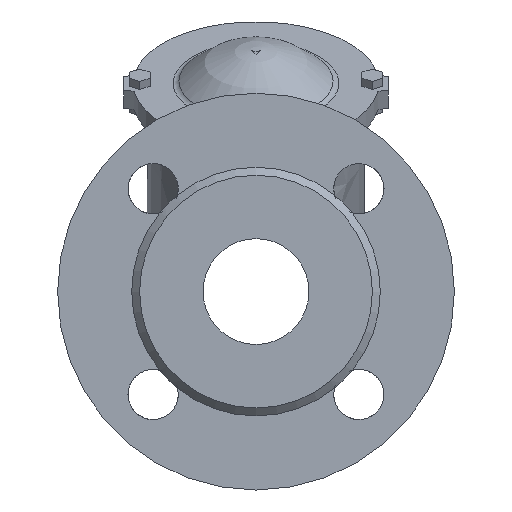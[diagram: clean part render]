
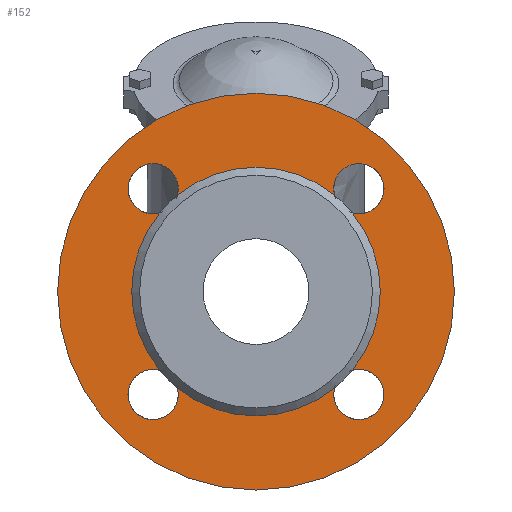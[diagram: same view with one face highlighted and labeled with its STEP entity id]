
A CAD part, left-side view. The second image highlights one B-rep face of the part: STEP entity #152.
In plain terms, the highlighted planar face has unit normal (-1, 0, 0).
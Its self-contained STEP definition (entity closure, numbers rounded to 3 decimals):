
#152=ADVANCED_FACE('',(#1096,#1098),#1100,.T.);
#1096=FACE_BOUND('',#1097,.T.);
#1097=EDGE_LOOP('',(#3699));
#1098=FACE_BOUND('',#1099,.T.);
#1099=EDGE_LOOP('',(#3700,#3701,#3702,#3703,#3704,#3705,#3706,#3707,#3708,#3709,
#3710,#3711,#3712));
#1100=PLANE('',#1101);
#1101=AXIS2_PLACEMENT_3D('',#1102,#1103,#1104);
#1102=CARTESIAN_POINT('',(-78.019,0.,0.));
#1103=DIRECTION('',(-1.,0.,0.));
#1104=DIRECTION('',(0.,0.,-1.));
#3699=ORIENTED_EDGE('',*,*,#4185,.F.);
#3700=ORIENTED_EDGE('',*,*,#4186,.T.);
#3701=ORIENTED_EDGE('',*,*,#4187,.T.);
#3702=ORIENTED_EDGE('',*,*,#4165,.T.);
#3703=ORIENTED_EDGE('',*,*,#4164,.T.);
#3704=ORIENTED_EDGE('',*,*,#4188,.T.);
#3705=ORIENTED_EDGE('',*,*,#4189,.T.);
#3706=ORIENTED_EDGE('',*,*,#4162,.T.);
#3707=ORIENTED_EDGE('',*,*,#4190,.T.);
#3708=ORIENTED_EDGE('',*,*,#4191,.T.);
#3709=ORIENTED_EDGE('',*,*,#4169,.T.);
#3710=ORIENTED_EDGE('',*,*,#4192,.T.);
#3711=ORIENTED_EDGE('',*,*,#4193,.T.);
#3712=ORIENTED_EDGE('',*,*,#4167,.T.);
#4162=EDGE_CURVE('',#4428,#4429,#4430,.T.);
#4164=EDGE_CURVE('',#4433,#4431,#4434,.T.);
#4165=EDGE_CURVE('',#4435,#4433,#4436,.T.);
#4167=EDGE_CURVE('',#4439,#4437,#4440,.T.);
#4169=EDGE_CURVE('',#4443,#4441,#4444,.T.);
#4185=EDGE_CURVE('',#4465,#4465,#4466,.T.);
#4186=EDGE_CURVE('',#4437,#4467,#4468,.F.);
#4187=EDGE_CURVE('',#4467,#4435,#4469,.F.);
#4188=EDGE_CURVE('',#4431,#4470,#4471,.F.);
#4189=EDGE_CURVE('',#4470,#4428,#4472,.F.);
#4190=EDGE_CURVE('',#4429,#4473,#4474,.F.);
#4191=EDGE_CURVE('',#4473,#4443,#4475,.F.);
#4192=EDGE_CURVE('',#4441,#4476,#4477,.F.);
#4193=EDGE_CURVE('',#4476,#4439,#4478,.F.);
#4428=VERTEX_POINT('',#4888);
#4429=VERTEX_POINT('',#4889);
#4430=CIRCLE('',#4890,47.);
#4431=VERTEX_POINT('',#4894);
#4433=VERTEX_POINT('',#4899);
#4434=CIRCLE('',#4900,47.);
#4435=VERTEX_POINT('',#4904);
#4436=CIRCLE('',#4905,47.);
#4437=VERTEX_POINT('',#4909);
#4439=VERTEX_POINT('',#4914);
#4440=CIRCLE('',#4915,47.);
#4441=VERTEX_POINT('',#4919);
#4443=VERTEX_POINT('',#4924);
#4444=CIRCLE('',#4925,47.);
#4465=VERTEX_POINT('',#4994);
#4466=CIRCLE('',#4995,75.);
#4467=VERTEX_POINT('',#4999);
#4468=CIRCLE('',#5000,9.5);
#4469=CIRCLE('',#5004,9.5);
#4470=VERTEX_POINT('',#5008);
#4471=CIRCLE('',#5009,9.5);
#4472=CIRCLE('',#5013,9.5);
#4473=VERTEX_POINT('',#5017);
#4474=CIRCLE('',#5018,9.5);
#4475=CIRCLE('',#5022,9.5);
#4476=VERTEX_POINT('',#5026);
#4477=CIRCLE('',#5027,9.5);
#4478=CIRCLE('',#5031,9.5);
#4888=CARTESIAN_POINT('',(-78.019,36.41,-29.721));
#4889=CARTESIAN_POINT('',(-78.019,36.41,29.721));
#4890=AXIS2_PLACEMENT_3D('',#4891,#4892,#4893);
#4891=CARTESIAN_POINT('',(-78.019,0.,0.));
#4892=DIRECTION('',(1.,0.,0.));
#4893=DIRECTION('',(0.,0.775,-0.632));
#4894=CARTESIAN_POINT('',(-78.019,29.721,-36.41));
#4899=CARTESIAN_POINT('',(-78.019,0.,-47.));
#4900=AXIS2_PLACEMENT_3D('',#4901,#4902,#4903);
#4901=CARTESIAN_POINT('',(-78.019,0.,0.));
#4902=DIRECTION('',(1.,0.,0.));
#4903=DIRECTION('',(0.,0.,-1.));
#4904=CARTESIAN_POINT('',(-78.019,-29.721,-36.41));
#4905=AXIS2_PLACEMENT_3D('',#4906,#4907,#4908);
#4906=CARTESIAN_POINT('',(-78.019,0.,0.));
#4907=DIRECTION('',(1.,0.,0.));
#4908=DIRECTION('',(0.,-0.632,-0.775));
#4909=CARTESIAN_POINT('',(-78.019,-36.41,-29.721));
#4914=CARTESIAN_POINT('',(-78.019,-36.41,29.721));
#4915=AXIS2_PLACEMENT_3D('',#4916,#4917,#4918);
#4916=CARTESIAN_POINT('',(-78.019,0.,0.));
#4917=DIRECTION('',(1.,0.,0.));
#4918=DIRECTION('',(0.,-0.775,0.632));
#4919=CARTESIAN_POINT('',(-78.019,-29.721,36.41));
#4924=CARTESIAN_POINT('',(-78.019,29.721,36.41));
#4925=AXIS2_PLACEMENT_3D('',#4926,#4927,#4928);
#4926=CARTESIAN_POINT('',(-78.019,0.,0.));
#4927=DIRECTION('',(1.,0.,0.));
#4928=DIRECTION('',(0.,0.632,0.775));
#4994=CARTESIAN_POINT('',(-78.019,0.,-75.));
#4995=AXIS2_PLACEMENT_3D('',#4996,#4997,#4998);
#4996=CARTESIAN_POINT('',(-78.019,0.,0.));
#4997=DIRECTION('',(1.,0.,0.));
#4998=DIRECTION('',(0.,0.,-1.));
#4999=CARTESIAN_POINT('',(-78.019,-38.891,-48.391));
#5000=AXIS2_PLACEMENT_3D('',#5001,#5002,#5003);
#5001=CARTESIAN_POINT('',(-78.019,-38.891,-38.891));
#5002=DIRECTION('',(-1.,0.,0.));
#5003=DIRECTION('',(0.,0.,-1.));
#5004=AXIS2_PLACEMENT_3D('',#5005,#5006,#5007);
#5005=CARTESIAN_POINT('',(-78.019,-38.891,-38.891));
#5006=DIRECTION('',(-1.,0.,0.));
#5007=DIRECTION('',(0.,0.965,0.261));
#5008=CARTESIAN_POINT('',(-78.019,48.391,-38.891));
#5009=AXIS2_PLACEMENT_3D('',#5010,#5011,#5012);
#5010=CARTESIAN_POINT('',(-78.019,38.891,-38.891));
#5011=DIRECTION('',(-1.,0.,0.));
#5012=DIRECTION('',(0.,1.,0.));
#5013=AXIS2_PLACEMENT_3D('',#5014,#5015,#5016);
#5014=CARTESIAN_POINT('',(-78.019,38.891,-38.891));
#5015=DIRECTION('',(-1.,0.,0.));
#5016=DIRECTION('',(0.,-0.261,0.965));
#5017=CARTESIAN_POINT('',(-78.019,38.891,48.391));
#5018=AXIS2_PLACEMENT_3D('',#5019,#5020,#5021);
#5019=CARTESIAN_POINT('',(-78.019,38.891,38.891));
#5020=DIRECTION('',(-1.,0.,0.));
#5021=DIRECTION('',(0.,0.,1.));
#5022=AXIS2_PLACEMENT_3D('',#5023,#5024,#5025);
#5023=CARTESIAN_POINT('',(-78.019,38.891,38.891));
#5024=DIRECTION('',(-1.,0.,0.));
#5025=DIRECTION('',(0.,-0.965,-0.261));
#5026=CARTESIAN_POINT('',(-78.019,-48.391,38.891));
#5027=AXIS2_PLACEMENT_3D('',#5028,#5029,#5030);
#5028=CARTESIAN_POINT('',(-78.019,-38.891,38.891));
#5029=DIRECTION('',(-1.,0.,0.));
#5030=DIRECTION('',(0.,-1.,0.));
#5031=AXIS2_PLACEMENT_3D('',#5032,#5033,#5034);
#5032=CARTESIAN_POINT('',(-78.019,-38.891,38.891));
#5033=DIRECTION('',(-1.,0.,0.));
#5034=DIRECTION('',(0.,0.261,-0.965));
